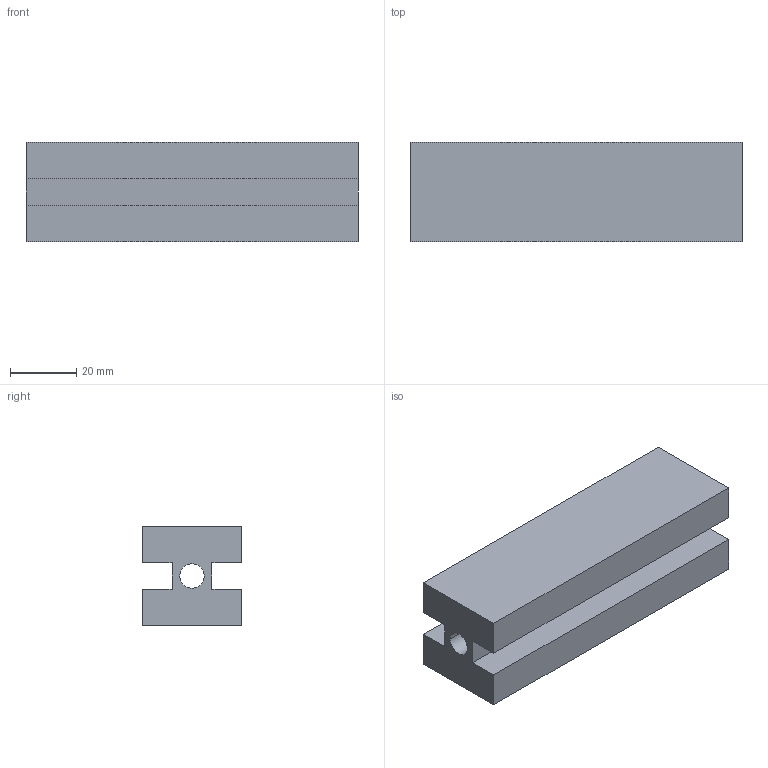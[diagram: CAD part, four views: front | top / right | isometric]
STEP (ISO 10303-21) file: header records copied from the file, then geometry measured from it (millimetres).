
FILE_DESCRIPTION(('no description'),'unknown implementation level');
FILE_NAME('3842992399_142821866.stp',' ',('Bosch Rexroth AG'),('CADClick - KiM GmbH - www.kimweb.de'),'unknown preprocess','ACIS','unknown authorization');
FILE_SCHEMA(('automotive_design'));
Length unit declared in the file: millimetre
Products named in the file (1): 1
Bounding box: 100 x 30 x 30 mm (x, y, z)
Volume: 71414.6 mm3; surface area: 19321.7 mm2
Topology: 1 solids, 1 shells, 16 faces, 42 edges, 28 vertices
Faces by surface type: plane 14, cylinder 2
Entity records: 996 total; most frequent: STYLED_ITEM 87, PRESENTATION_STYLE_ASSIGNMENT 87, CARTESIAN_POINT 87, COLOUR_RGB 87, ORIENTED_EDGE 84, DIRECTION 80, EDGE_CURVE 42, CURVE_STYLE 42
